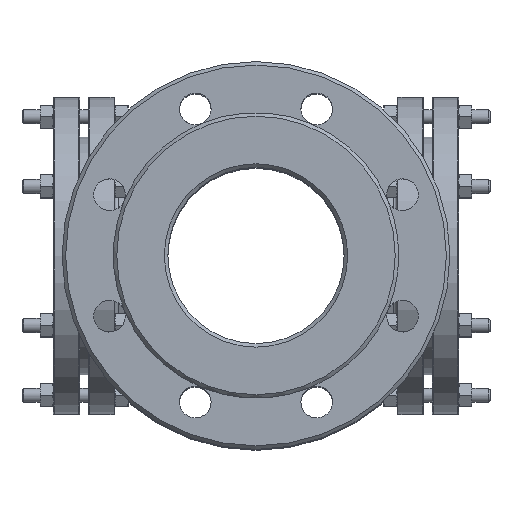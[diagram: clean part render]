
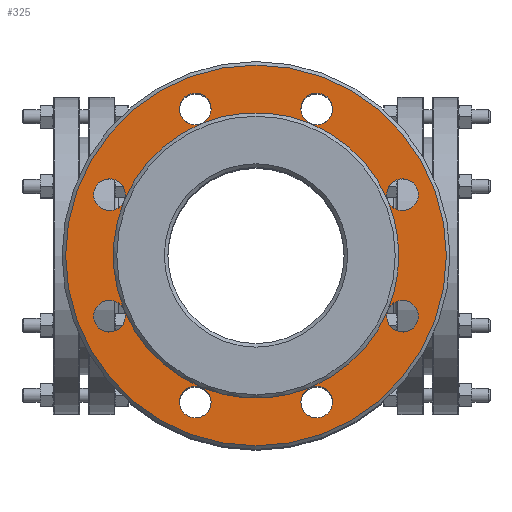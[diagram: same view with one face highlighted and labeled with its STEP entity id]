
A CAD part, top view. The second image highlights one B-rep face of the part: STEP entity #325.
In plain terms, the highlighted planar face has unit normal (0, 0, 1).
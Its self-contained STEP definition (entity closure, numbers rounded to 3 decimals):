
#325=ADVANCED_FACE('',(#3160,#3162,#3164,#3166,#3168,#3170,#3172,#3174,#3176,#3178),
#3180,.T.);
#3160=FACE_BOUND('',#3161,.T.);
#3161=EDGE_LOOP('',(#9897));
#3162=FACE_BOUND('',#3163,.T.);
#3163=EDGE_LOOP('',(#9898));
#3164=FACE_BOUND('',#3165,.T.);
#3165=EDGE_LOOP('',(#9899,#9900));
#3166=FACE_BOUND('',#3167,.T.);
#3167=EDGE_LOOP('',(#9901,#9902,#9903,#9904,#9905,#9906,#9907,#9908));
#3168=FACE_BOUND('',#3169,.T.);
#3169=EDGE_LOOP('',(#9909,#9910));
#3170=FACE_BOUND('',#3171,.T.);
#3171=EDGE_LOOP('',(#9911,#9912));
#3172=FACE_BOUND('',#3173,.T.);
#3173=EDGE_LOOP('',(#9913,#9914));
#3174=FACE_BOUND('',#3175,.T.);
#3175=EDGE_LOOP('',(#9915,#9916));
#3176=FACE_BOUND('',#3177,.T.);
#3177=EDGE_LOOP('',(#9917,#9918));
#3178=FACE_BOUND('',#3179,.T.);
#3179=EDGE_LOOP('',(#9919,#9920));
#3180=PLANE('',#3181);
#3181=AXIS2_PLACEMENT_3D('',#3182,#3183,#3184);
#3182=CARTESIAN_POINT('',(0.,0.,173.));
#3183=DIRECTION('',(0.,0.,1.));
#3184=DIRECTION('',(1.,0.,0.));
#9897=ORIENTED_EDGE('',*,*,#12764,.F.);
#9898=ORIENTED_EDGE('',*,*,#12765,.T.);
#9899=ORIENTED_EDGE('',*,*,#12766,.T.);
#9900=ORIENTED_EDGE('',*,*,#12767,.T.);
#9901=ORIENTED_EDGE('',*,*,#12680,.T.);
#9902=ORIENTED_EDGE('',*,*,#12679,.T.);
#9903=ORIENTED_EDGE('',*,*,#12678,.T.);
#9904=ORIENTED_EDGE('',*,*,#12677,.F.);
#9905=ORIENTED_EDGE('',*,*,#12676,.F.);
#9906=ORIENTED_EDGE('',*,*,#12675,.F.);
#9907=ORIENTED_EDGE('',*,*,#12682,.F.);
#9908=ORIENTED_EDGE('',*,*,#12681,.F.);
#9909=ORIENTED_EDGE('',*,*,#12768,.F.);
#9910=ORIENTED_EDGE('',*,*,#12769,.F.);
#9911=ORIENTED_EDGE('',*,*,#12770,.F.);
#9912=ORIENTED_EDGE('',*,*,#12771,.F.);
#9913=ORIENTED_EDGE('',*,*,#12772,.F.);
#9914=ORIENTED_EDGE('',*,*,#12773,.F.);
#9915=ORIENTED_EDGE('',*,*,#12774,.F.);
#9916=ORIENTED_EDGE('',*,*,#12775,.F.);
#9917=ORIENTED_EDGE('',*,*,#12776,.T.);
#9918=ORIENTED_EDGE('',*,*,#12777,.T.);
#9919=ORIENTED_EDGE('',*,*,#12778,.T.);
#9920=ORIENTED_EDGE('',*,*,#12779,.T.);
#12675=EDGE_CURVE('',#14205,#14206,#14207,.T.);
#12676=EDGE_CURVE('',#14206,#14208,#14209,.T.);
#12677=EDGE_CURVE('',#14208,#14210,#14211,.T.);
#12678=EDGE_CURVE('',#14212,#14210,#14213,.T.);
#12679=EDGE_CURVE('',#14214,#14212,#14215,.T.);
#12680=EDGE_CURVE('',#14216,#14214,#14217,.T.);
#12681=EDGE_CURVE('',#14216,#14218,#14219,.T.);
#12682=EDGE_CURVE('',#14218,#14205,#14220,.T.);
#12764=EDGE_CURVE('',#14347,#14347,#14348,.T.);
#12765=EDGE_CURVE('',#14349,#14349,#14350,.T.);
#12766=EDGE_CURVE('',#14218,#14351,#14352,.T.);
#12767=EDGE_CURVE('',#14351,#14218,#14353,.T.);
#12768=EDGE_CURVE('',#14354,#14216,#14355,.T.);
#12769=EDGE_CURVE('',#14216,#14354,#14356,.T.);
#12770=EDGE_CURVE('',#14357,#14214,#14358,.T.);
#12771=EDGE_CURVE('',#14214,#14357,#14359,.T.);
#12772=EDGE_CURVE('',#14360,#14212,#14361,.T.);
#12773=EDGE_CURVE('',#14212,#14360,#14362,.T.);
#12774=EDGE_CURVE('',#14363,#14210,#14364,.T.);
#12775=EDGE_CURVE('',#14210,#14363,#14365,.T.);
#12776=EDGE_CURVE('',#14208,#14366,#14367,.T.);
#12777=EDGE_CURVE('',#14366,#14208,#14368,.T.);
#12778=EDGE_CURVE('',#14206,#14369,#14370,.T.);
#12779=EDGE_CURVE('',#14369,#14206,#14371,.T.);
#14205=VERTEX_POINT('',#18178);
#14206=VERTEX_POINT('',#18179);
#14207=CIRCLE('',#18180,81.);
#14208=VERTEX_POINT('',#18184);
#14209=CIRCLE('',#18185,81.);
#14210=VERTEX_POINT('',#18189);
#14211=CIRCLE('',#18190,81.);
#14212=VERTEX_POINT('',#18194);
#14213=CIRCLE('',#18195,81.);
#14214=VERTEX_POINT('',#18199);
#14215=CIRCLE('',#18200,81.);
#14216=VERTEX_POINT('',#18204);
#14217=CIRCLE('',#18205,81.);
#14218=VERTEX_POINT('',#18209);
#14219=CIRCLE('',#18210,81.);
#14220=CIRCLE('',#18214,81.);
#14347=VERTEX_POINT('',#19667);
#14348=CIRCLE('',#19668,108.);
#14349=VERTEX_POINT('',#19672);
#14350=CIRCLE('',#19673,9.);
#14351=VERTEX_POINT('',#19677);
#14352=CIRCLE('',#19678,9.);
#14353=CIRCLE('',#19682,9.);
#14354=VERTEX_POINT('',#19686);
#14355=CIRCLE('',#19687,9.);
#14356=CIRCLE('',#19691,9.);
#14357=VERTEX_POINT('',#19695);
#14358=CIRCLE('',#19696,9.);
#14359=CIRCLE('',#19700,9.);
#14360=VERTEX_POINT('',#19704);
#14361=CIRCLE('',#19705,9.);
#14362=CIRCLE('',#19709,9.);
#14363=VERTEX_POINT('',#19713);
#14364=CIRCLE('',#19714,9.);
#14365=CIRCLE('',#19718,9.);
#14366=VERTEX_POINT('',#19722);
#14367=CIRCLE('',#19723,9.);
#14368=CIRCLE('',#19727,9.);
#14369=VERTEX_POINT('',#19731);
#14370=CIRCLE('',#19732,9.);
#14371=CIRCLE('',#19736,9.);
#18178=CARTESIAN_POINT('',(81.,0.,173.));
#18179=CARTESIAN_POINT('',(74.834,30.997,173.));
#18180=AXIS2_PLACEMENT_3D('',#18181,#18182,#18183);
#18181=CARTESIAN_POINT('',(0.,0.,173.));
#18182=DIRECTION('',(0.,0.,1.));
#18183=DIRECTION('',(1.,0.,0.));
#18184=CARTESIAN_POINT('',(30.997,74.834,173.));
#18185=AXIS2_PLACEMENT_3D('',#18186,#18187,#18188);
#18186=CARTESIAN_POINT('',(0.,0.,173.));
#18187=DIRECTION('',(0.,0.,1.));
#18188=DIRECTION('',(0.924,0.383,0.));
#18189=CARTESIAN_POINT('',(-30.997,74.834,173.));
#18190=AXIS2_PLACEMENT_3D('',#18191,#18192,#18193);
#18191=CARTESIAN_POINT('',(0.,0.,173.));
#18192=DIRECTION('',(0.,0.,1.));
#18193=DIRECTION('',(0.383,0.924,0.));
#18194=CARTESIAN_POINT('',(-74.834,30.997,173.));
#18195=AXIS2_PLACEMENT_3D('',#18196,#18197,#18198);
#18196=CARTESIAN_POINT('',(0.,0.,173.));
#18197=DIRECTION('',(0.,0.,-1.));
#18198=DIRECTION('',(-0.924,0.383,0.));
#18199=CARTESIAN_POINT('',(-74.834,-30.997,173.));
#18200=AXIS2_PLACEMENT_3D('',#18201,#18202,#18203);
#18201=CARTESIAN_POINT('',(0.,0.,173.));
#18202=DIRECTION('',(0.,0.,-1.));
#18203=DIRECTION('',(-0.924,-0.383,0.));
#18204=CARTESIAN_POINT('',(-30.997,-74.834,173.));
#18205=AXIS2_PLACEMENT_3D('',#18206,#18207,#18208);
#18206=CARTESIAN_POINT('',(0.,0.,173.));
#18207=DIRECTION('',(0.,0.,-1.));
#18208=DIRECTION('',(-0.383,-0.924,0.));
#18209=CARTESIAN_POINT('',(30.997,-74.834,173.));
#18210=AXIS2_PLACEMENT_3D('',#18211,#18212,#18213);
#18211=CARTESIAN_POINT('',(0.,0.,173.));
#18212=DIRECTION('',(0.,0.,1.));
#18213=DIRECTION('',(-0.383,-0.924,0.));
#18214=AXIS2_PLACEMENT_3D('',#18215,#18216,#18217);
#18215=CARTESIAN_POINT('',(0.,0.,173.));
#18216=DIRECTION('',(0.,0.,1.));
#18217=DIRECTION('',(0.383,-0.924,0.));
#19667=CARTESIAN_POINT('',(108.,0.,173.));
#19668=AXIS2_PLACEMENT_3D('',#19669,#19670,#19671);
#19669=CARTESIAN_POINT('',(0.,0.,173.));
#19670=DIRECTION('',(0.,0.,-1.));
#19671=DIRECTION('',(1.,0.,0.));
#19672=CARTESIAN_POINT('',(92.149,-34.442,173.));
#19673=AXIS2_PLACEMENT_3D('',#19674,#19675,#19676);
#19674=CARTESIAN_POINT('',(83.149,-34.442,173.));
#19675=DIRECTION('',(0.,0.,-1.));
#19676=DIRECTION('',(1.,0.,0.));
#19677=CARTESIAN_POINT('',(43.442,-83.149,173.));
#19678=AXIS2_PLACEMENT_3D('',#19679,#19680,#19681);
#19679=CARTESIAN_POINT('',(34.442,-83.149,173.));
#19680=DIRECTION('',(0.,0.,-1.));
#19681=DIRECTION('',(-0.383,0.924,0.));
#19682=AXIS2_PLACEMENT_3D('',#19683,#19684,#19685);
#19683=CARTESIAN_POINT('',(34.442,-83.149,173.));
#19684=DIRECTION('',(0.,0.,-1.));
#19685=DIRECTION('',(1.,0.,0.));
#19686=CARTESIAN_POINT('',(-43.442,-83.149,173.));
#19687=AXIS2_PLACEMENT_3D('',#19688,#19689,#19690);
#19688=CARTESIAN_POINT('',(-34.442,-83.149,173.));
#19689=DIRECTION('',(0.,0.,1.));
#19690=DIRECTION('',(-1.,0.,0.));
#19691=AXIS2_PLACEMENT_3D('',#19692,#19693,#19694);
#19692=CARTESIAN_POINT('',(-34.442,-83.149,173.));
#19693=DIRECTION('',(0.,0.,1.));
#19694=DIRECTION('',(0.383,0.924,0.));
#19695=CARTESIAN_POINT('',(-92.149,-34.442,173.));
#19696=AXIS2_PLACEMENT_3D('',#19697,#19698,#19699);
#19697=CARTESIAN_POINT('',(-83.149,-34.442,173.));
#19698=DIRECTION('',(0.,0.,1.));
#19699=DIRECTION('',(-1.,0.,0.));
#19700=AXIS2_PLACEMENT_3D('',#19701,#19702,#19703);
#19701=CARTESIAN_POINT('',(-83.149,-34.442,173.));
#19702=DIRECTION('',(0.,0.,1.));
#19703=DIRECTION('',(0.924,0.383,0.));
#19704=CARTESIAN_POINT('',(-92.149,34.442,173.));
#19705=AXIS2_PLACEMENT_3D('',#19706,#19707,#19708);
#19706=CARTESIAN_POINT('',(-83.149,34.442,173.));
#19707=DIRECTION('',(0.,0.,1.));
#19708=DIRECTION('',(-1.,0.,0.));
#19709=AXIS2_PLACEMENT_3D('',#19710,#19711,#19712);
#19710=CARTESIAN_POINT('',(-83.149,34.442,173.));
#19711=DIRECTION('',(0.,0.,1.));
#19712=DIRECTION('',(0.924,-0.383,0.));
#19713=CARTESIAN_POINT('',(-43.442,83.149,173.));
#19714=AXIS2_PLACEMENT_3D('',#19715,#19716,#19717);
#19715=CARTESIAN_POINT('',(-34.442,83.149,173.));
#19716=DIRECTION('',(0.,0.,1.));
#19717=DIRECTION('',(-1.,0.,0.));
#19718=AXIS2_PLACEMENT_3D('',#19719,#19720,#19721);
#19719=CARTESIAN_POINT('',(-34.442,83.149,173.));
#19720=DIRECTION('',(0.,0.,1.));
#19721=DIRECTION('',(0.383,-0.924,0.));
#19722=CARTESIAN_POINT('',(43.442,83.149,173.));
#19723=AXIS2_PLACEMENT_3D('',#19724,#19725,#19726);
#19724=CARTESIAN_POINT('',(34.442,83.149,173.));
#19725=DIRECTION('',(0.,0.,-1.));
#19726=DIRECTION('',(-0.383,-0.924,0.));
#19727=AXIS2_PLACEMENT_3D('',#19728,#19729,#19730);
#19728=CARTESIAN_POINT('',(34.442,83.149,173.));
#19729=DIRECTION('',(0.,0.,-1.));
#19730=DIRECTION('',(1.,0.,0.));
#19731=CARTESIAN_POINT('',(92.149,34.442,173.));
#19732=AXIS2_PLACEMENT_3D('',#19733,#19734,#19735);
#19733=CARTESIAN_POINT('',(83.149,34.442,173.));
#19734=DIRECTION('',(0.,0.,-1.));
#19735=DIRECTION('',(-0.924,-0.383,0.));
#19736=AXIS2_PLACEMENT_3D('',#19737,#19738,#19739);
#19737=CARTESIAN_POINT('',(83.149,34.442,173.));
#19738=DIRECTION('',(0.,0.,-1.));
#19739=DIRECTION('',(1.,0.,0.));
